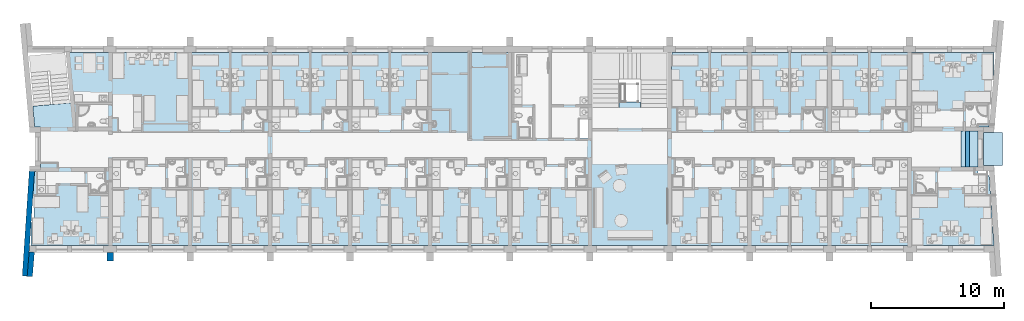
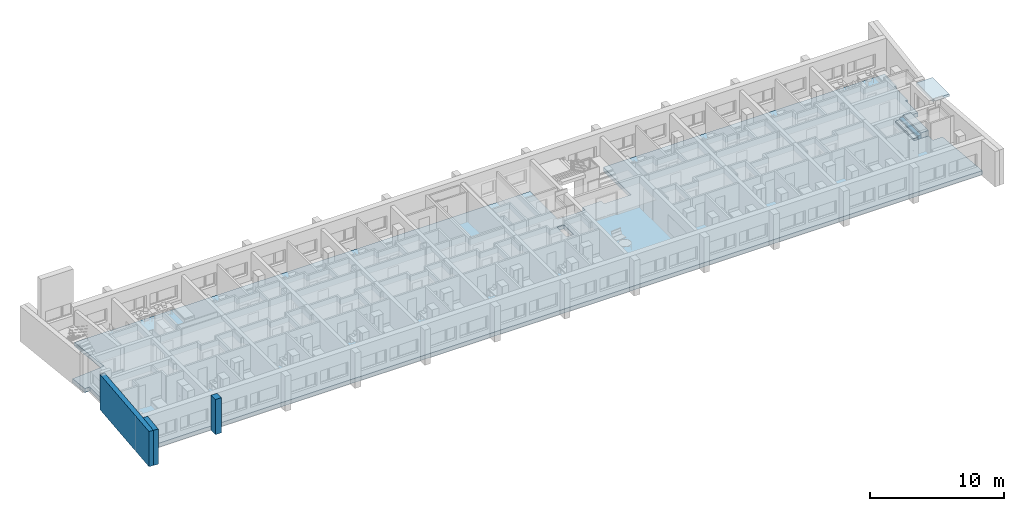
# One storey, part 1 of 165: 5 slabs, 3 walls, 1 opening.
"""IFC2X3 building model written with IfcOpenShell, lengths in millimetres."""

from ifc_helpers import new_model, entity, si_unit, converted_unit, money_unit, direction, frame, origin_with_axes, place, context, subcontext, project, spatial, polyline, outline, extrude, material, layer, layer_set, layer_usage, type_object, element, save


model = new_model("IFC2X3")

# Units and contexts
model_context = context("Model", 3, precision=1e-05, world=origin_with_axes(), true_north=direction((0.0, 1.0)))
body_context = subcontext(model_context, "Body", "Model", "MODEL_VIEW")
ifc_project = project(units=[si_unit("LENGTHUNIT", "METRE", prefix="MILLI"), si_unit("AREAUNIT", "SQUARE_METRE"), si_unit("VOLUMEUNIT", "CUBIC_METRE"), converted_unit("PLANEANGLEUNIT", "DEGREE", entity("IfcPlaneAngleMeasure", 0.0174532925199), si_unit("PLANEANGLEUNIT", "RADIAN"), dimensions=[0, 0, 0, 0, 0, 0, 0]), si_unit("SOLIDANGLEUNIT", "STERADIAN"), money_unit("USD"), converted_unit("TIMEUNIT", "Year", entity("IfcTimeMeasure", 31556926.0), si_unit("TIMEUNIT", "SECOND"), dimensions=[0, 0, 0, 0, 0, 0, 0]), si_unit("MASSUNIT", "GRAM"), si_unit("THERMODYNAMICTEMPERATUREUNIT", "DEGREE_CELSIUS"), si_unit("LUMINOUSINTENSITYUNIT", "LUMEN")], contexts=[model_context])

# Site, building, storey
site_placement = place(None, origin_with_axes())
site = spatial("IfcSite", under=ifc_project, at=site_placement, Name="Site", CompositionType="ELEMENT")
building_placement = place(site_placement, origin_with_axes())
building = spatial("IfcBuilding", under=site, at=building_placement, Name="Building", CompositionType="ELEMENT")
storey_placement = place(building_placement, frame((0.0, 0.0, 6300.0), z_axis=(0.0, 0.0, 1.0), x_axis=(1.0, 0.0, 0.0)))
storey = spatial("IfcBuildingStorey", under=building, at=storey_placement, Name="4KORRUS", CompositionType="ELEMENT", Elevation=6300.0)

# Slab, opening
ifc_material_1 = material(Name="Plaat")
ifc_layer_1 = layer(ifc_material_1, 10.0, ventilated="UNKNOWN")
ifc_material_2 = material(Name="Betoonvalu")
ifc_layer_2 = layer(ifc_material_2, 15.0, ventilated="UNKNOWN")
ifc_material_3 = material(Name="Vahtpolüstüreen")
ifc_layer_3 = layer(ifc_material_3, 30.0, ventilated="UNKNOWN")
ifc_material_4 = material(Name="Reinforced Concrete - Structural (1)")
ifc_layer_4 = layer(ifc_material_4, 265.0, ventilated="UNKNOWN")
ifc_material_5 = material(Name="Kile")
ifc_layer_5 = layer(ifc_material_5, 45.0, ventilated="UNKNOWN")
ifc_layer_set_1 = layer_set([ifc_layer_1, ifc_layer_2, ifc_layer_3, ifc_layer_4, ifc_layer_5], Name="Olemasolev põrand, vahelagi, uus viimistlus")
ifc_layer_usage_1 = layer_usage(ifc_layer_set_1, "AXIS3", "NEGATIVE", 365.0)
slab_type_1 = type_object("IfcSlabType", Name="Olemasolev põrand, vahelagi, uus viimistlus 365", PredefinedType="NOTDEFINED")
slab_1_placement = place(storey_placement, frame((-53883.5705386, -17892.0992225, 0.0), z_axis=(0.0, 0.0, 1.0), x_axis=(1.0, 0.0, 0.0)))
slab_1 = element("IfcSlab", 1, at=slab_1_placement, inside=storey, type_object=slab_type_1, material=ifc_layer_usage_1, Name="P3", ObjectType="P3", PredefinedType="FLOOR", context=body_context, shape_type="SweptSolid", body=[
    extrude(outline(polyline([(0.0, 0.0), (-200.0, 0.0), (-200.0, -1747.14067685), (72101.0871914, -1747.14067685), (71728.6871632, 3518.52622937), (70898.7505083, 3518.52622937), (70898.7505083, 7152.49511376), (71725.1756497, 7152.49511376), (71697.0324324, 8971.73021325), (71888.8339173, 8971.73021325), (71888.8339173, 10975.8031564), (72074.334347, 10975.8031564), (72074.334347, 12752.4951137), (47899.386612, 12752.4951137), (47893.2738352, 8611.45569565), (45543.2738352, 8611.45569565), (45543.2738352, 9021.45569565), (43943.2738352, 9021.45569565), (43943.2738352, 8611.45569565), (41593.2738352, 8611.45569565), (41593.2738352, 12752.4951137), (2402.95650777, 12752.4951137), (2748.45374048, 8973.55942105), (-71.871515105, 8727.52356715), (61.372020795, 7152.49511376), (491.343707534, 7152.49511376), (491.343707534, 3804.76165521), (54.662012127, 3804.76165521), (-65.083796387, 2004.07294201), (0.0, 1999.9999988), (0.0, 0.0)])), frame((0.0, 0.0, -365.0), z_axis=(0.0, 0.0, 1.0), x_axis=(1.0, 0.0, 0.0)), (0.0, 0.0, 1.0), 365.0),
])
opening_placement = place(slab_1_placement, origin_with_axes())
element("IfcOpeningElement", 2, at=opening_placement, cuts=slab_1, Name="Slab Opening", context=body_context, shape_type="SweptSolid", body=[
    extrude(outline(polyline([(40993.2738352, 7732.85932315), (40993.2738352, 6302.85932315), (41593.2738352, 6302.85932315), (41593.2738352, 7732.85932315), (40993.2738352, 7732.85932315)])), frame((0.0, 0.0, -365.0), z_axis=(0.0, 0.0, 1.0), x_axis=(1.0, 0.0, 0.0)), (0.0, 0.0, 1.0), 365.0),
])

# Slabs
ifc_material_6 = material(Name="Teras")
ifc_layer_6 = layer(ifc_material_6, 200.0, ventilated="UNKNOWN")
ifc_layer_set_2 = layer_set([ifc_layer_6], Name="Teras 200")
ifc_layer_usage_2 = layer_usage(ifc_layer_set_2, "AXIS3", "NEGATIVE", 200.0)
slab_type_2 = type_object("IfcSlabType", Name="Teras 200", PredefinedType="NOTDEFINED")
slab_2_placement = place(storey_placement, frame((17415.1799697, -13639.2398994, 3100.0), z_axis=(0.0, 0.0, 1.0), x_axis=(1.0, 0.0, 0.0)))
element("IfcSlab", 3, at=slab_2_placement, inside=storey, type_object=slab_type_2, material=ifc_layer_usage_2, Name="R1", ObjectType="R1", PredefinedType="FLOOR", context=body_context, shape_type="SweptSolid", body=[
    extrude(outline(polyline([(0.0, 0.0), (1444.78312254, 0.0), (1444.78312254, 2499.63579061), (0.0, 2499.63579061), (0.0, 0.0)])), frame((0.0, 0.0, -200.0), z_axis=(0.0, 0.0, 1.0), x_axis=(1.0, 0.0, 0.0)), (0.0, 0.0, 1.0), 200.0),
])
ifc_material_7 = material(Name="Betoon")
ifc_layer_7 = layer(ifc_material_7, 180.0, ventilated="UNKNOWN")
ifc_layer_set_3 = layer_set([ifc_layer_7], Name="Betoon 180")
ifc_layer_usage_3 = layer_usage(ifc_layer_set_3, "AXIS3", "NEGATIVE", 180.0)
slab_type_3 = type_object("IfcSlabType", Name="Betoon 180", PredefinedType="NOTDEFINED")
slab_3_placement = place(storey_placement, frame((16051.8918112, -11039.6041088, 180.0), z_axis=(0.0, 0.0, 1.0), x_axis=(1.0, 0.0, 0.0)))
element("IfcSlab", 4, at=slab_3_placement, inside=storey, type_object=slab_type_3, material=ifc_layer_usage_3, Name="SLA - 014", PredefinedType="FLOOR", context=body_context, shape_type="SweptSolid", body=[
    extrude(outline(polyline([(0.0, 0.0), (-315.756231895, 0.0), (-315.756231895, -2699.63579061), (0.0, -2699.63579061), (0.0, 0.0)])), frame((0.0, 0.0, -180.0), z_axis=(0.0, 0.0, 1.0), x_axis=(1.0, 0.0, 0.0)), (0.0, 0.0, 1.0), 180.0),
])
ifc_layer_8 = layer(ifc_material_7, 325.0, ventilated="UNKNOWN")
ifc_layer_set_4 = layer_set([ifc_layer_8], Name="Betoon 325")
ifc_layer_usage_4 = layer_usage(ifc_layer_set_4, "AXIS3", "NEGATIVE", 325.0)
slab_type_4 = type_object("IfcSlabType", Name="Betoon 325", PredefinedType="NOTDEFINED")
slab_4_placement = place(storey_placement, frame((16367.6480431, -11039.6041088, 325.0), z_axis=(0.0, 0.0, 1.0), x_axis=(1.0, 0.0, 0.0)))
element("IfcSlab", 5, at=slab_4_placement, inside=storey, type_object=slab_type_4, material=ifc_layer_usage_4, Name="SLA - 014", PredefinedType="FLOOR", context=body_context, shape_type="SweptSolid", body=[
    extrude(outline(polyline([(0.0, 0.0), (-315.756231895, 0.0), (-315.756231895, -2699.63579061), (0.0, -2699.63579061), (0.0, 0.0)])), frame((0.0, 0.0, -325.0), z_axis=(0.0, 0.0, 1.0), x_axis=(1.0, 0.0, 0.0)), (0.0, 0.0, 1.0), 325.0),
])
ifc_layer_9 = layer(ifc_material_7, 500.0, ventilated="UNKNOWN")
ifc_layer_set_5 = layer_set([ifc_layer_9], Name="Betoon 500")
ifc_layer_usage_5 = layer_usage(ifc_layer_set_5, "AXIS3", "NEGATIVE", 500.0)
slab_type_5 = type_object("IfcSlabType", Name="Betoon 500", PredefinedType="NOTDEFINED")
slab_5_placement = place(storey_placement, frame((17015.1799697, -13739.2398994, 500.0), z_axis=(0.0, 0.0, 1.0), x_axis=(1.0, 0.0, 0.0)))
element("IfcSlab", 6, at=slab_5_placement, inside=storey, type_object=slab_type_5, material=ifc_layer_usage_5, Name="SLA - 013", PredefinedType="FLOOR", context=body_context, shape_type="SweptSolid", body=[
    extrude(outline(polyline([(0.0, 0.0), (0.0, 2699.63579061), (-647.531926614, 2699.63579061), (-647.531926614, 0.0), (0.0, 0.0)])), frame((0.0, 0.0, -500.0), z_axis=(0.0, 0.0, 1.0), x_axis=(1.0, 0.0, 0.0)), (0.0, 0.0, 1.0), 500.0),
])

# Walls
ifc_material_8 = material(Name="Olemasolevad seinad tellis, uus viimistlus")
ifc_layer_10 = layer(ifc_material_8, 400.0, ventilated="UNKNOWN")
ifc_layer_set_6 = layer_set([ifc_layer_10], Name="Olemasolevad seinad tellis, uus viimistlus 400")
ifc_layer_usage_6 = layer_usage(ifc_layer_set_6, "AXIS2", "POSITIVE", -400.0)
wall_type_1 = type_object("IfcWallType", Name="Olemasolevad seinad tellis, uus viimistlus 400", PredefinedType="NOTDEFINED")
wall_1_placement = place(storey_placement, frame((-53833.6664621, -20141.6066819, 0.0), z_axis=(0.0, 0.0, 1.0), x_axis=(-0.0832329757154, -0.996530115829, 0.0)))
element("IfcWallStandardCase", 7, at=wall_1_placement, inside=storey, type_object=wall_type_1, material=ifc_layer_usage_6, Name="VS1", ObjectType="VS1", context=body_context, shape_type="SweptSolid", body=[
    extrude(outline(polyline([(0.0, -400.0), (1839.14439674, -400.0), (1839.14439674, 0.0), (0.0, 0.0), (0.0, -400.0)])), origin_with_axes(), (0.0, 0.0, 1.0), 3200.0),
])
ifc_layer_usage_7 = layer_usage(ifc_layer_set_6, "AXIS2", "POSITIVE", 0.0)
wall_2_placement = place(storey_placement, frame((-54200.4261075, -13645.7452196, 0.0), z_axis=(0.0, 0.0, 1.0), x_axis=(-0.0663534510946, -0.997796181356, 0.0)))
element("IfcWallStandardCase", 8, at=wall_2_placement, inside=storey, type_object=wall_type_1, material=ifc_layer_usage_7, Name="VS1", ObjectType="VS1", context=body_context, shape_type="SweptSolid", body=[
    extrude(outline(polyline([(0.0, 0.0), (8288.6967778, 0.0), (8288.6967778, 400.0), (0.0, 400.0), (0.0, 0.0)])), origin_with_axes(), (0.0, 0.0, 1.0), 3200.0),
])
ifc_layer_11 = layer(ifc_material_8, 500.0, ventilated="UNKNOWN")
ifc_layer_set_7 = layer_set([ifc_layer_11], Name="Olemasolevad seinad tellis, uus viimistlus 500")
ifc_layer_usage_8 = layer_usage(ifc_layer_set_7, "AXIS2", "POSITIVE", -100.0)
wall_type_2 = type_object("IfcWallType", Name="Olemasolevad seinad tellis, uus viimistlus 500", PredefinedType="NOTDEFINED")
wall_3_placement = place(storey_placement, frame((-47990.2967033, -20796.6419407, 0.0), z_axis=(0.0, 0.0, 1.0), x_axis=(0.0, 1.0, 0.0)))
element("IfcWallStandardCase", 9, at=wall_3_placement, inside=storey, type_object=wall_type_2, material=ifc_layer_usage_8, Name="VS1", ObjectType="VS1", context=body_context, shape_type="SweptSolid", body=[
    extrude(outline(polyline([(0.0, -100.0), (657.402041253, -100.0), (657.402041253, 400.0), (0.0, 400.0), (0.0, -100.0)])), origin_with_axes(), (0.0, 0.0, 1.0), 3200.0),
])

save(model, "model.ifc")
